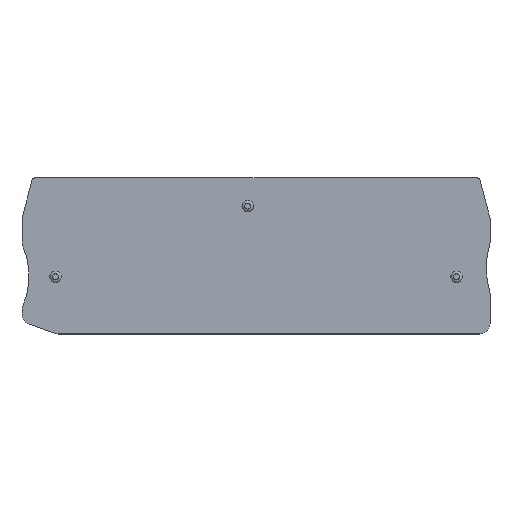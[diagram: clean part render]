
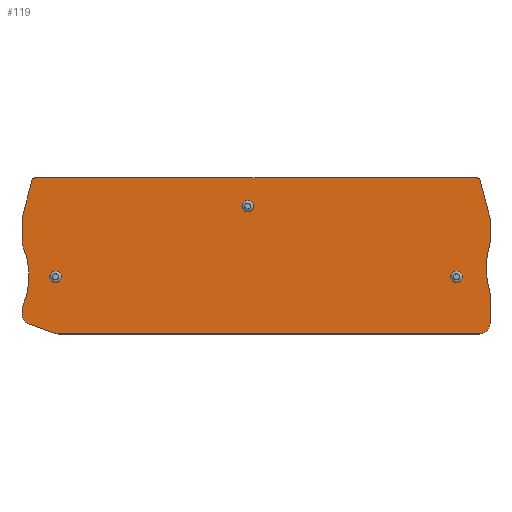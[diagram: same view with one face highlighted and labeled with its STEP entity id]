
A CAD part, top view. The second image highlights one B-rep face of the part: STEP entity #119.
In plain terms, the highlighted planar face has unit normal (0, 0, 1).
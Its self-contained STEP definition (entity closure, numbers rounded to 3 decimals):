
#37=FACE_BOUND('',#188,.T.);
#38=FACE_BOUND('',#189,.T.);
#39=FACE_BOUND('',#190,.T.);
#40=FACE_BOUND('',#191,.T.);
#69=CIRCLE('',#541,0.5);
#71=CIRCLE('',#546,2.);
#73=CIRCLE('',#549,14.5);
#75=CIRCLE('',#552,2.);
#77=CIRCLE('',#556,2.);
#79=CIRCLE('',#560,2.);
#81=CIRCLE('',#564,2.);
#83=CIRCLE('',#568,2.);
#85=CIRCLE('',#571,14.5);
#87=CIRCLE('',#574,2.);
#89=CIRCLE('',#579,0.5);
#90=CIRCLE('',#581,1.062);
#91=CIRCLE('',#582,1.062);
#92=CIRCLE('',#583,1.062);
#119=ADVANCED_FACE('',(#37,#38,#39,#40),#139,.F.);
#139=PLANE('',#584);
#188=EDGE_LOOP('',(#288,#289,#290,#291,#292,#293,#294,#295,#296,#297,#298,
#299,#300,#301,#302,#303,#304,#305,#306,#307));
#189=EDGE_LOOP('',(#308));
#190=EDGE_LOOP('',(#309));
#191=EDGE_LOOP('',(#310));
#288=ORIENTED_EDGE('',*,*,#397,.F.);
#289=ORIENTED_EDGE('',*,*,#454,.F.);
#290=ORIENTED_EDGE('',*,*,#451,.F.);
#291=ORIENTED_EDGE('',*,*,#448,.F.);
#292=ORIENTED_EDGE('',*,*,#445,.F.);
#293=ORIENTED_EDGE('',*,*,#442,.F.);
#294=ORIENTED_EDGE('',*,*,#439,.F.);
#295=ORIENTED_EDGE('',*,*,#436,.F.);
#296=ORIENTED_EDGE('',*,*,#433,.F.);
#297=ORIENTED_EDGE('',*,*,#430,.F.);
#298=ORIENTED_EDGE('',*,*,#427,.F.);
#299=ORIENTED_EDGE('',*,*,#424,.F.);
#300=ORIENTED_EDGE('',*,*,#421,.F.);
#301=ORIENTED_EDGE('',*,*,#418,.F.);
#302=ORIENTED_EDGE('',*,*,#415,.F.);
#303=ORIENTED_EDGE('',*,*,#412,.F.);
#304=ORIENTED_EDGE('',*,*,#409,.F.);
#305=ORIENTED_EDGE('',*,*,#406,.F.);
#306=ORIENTED_EDGE('',*,*,#403,.F.);
#307=ORIENTED_EDGE('',*,*,#400,.F.);
#308=ORIENTED_EDGE('',*,*,#455,.F.);
#309=ORIENTED_EDGE('',*,*,#456,.F.);
#310=ORIENTED_EDGE('',*,*,#457,.F.);
#348=VERTEX_POINT('',#769);
#349=VERTEX_POINT('',#771);
#351=VERTEX_POINT('',#777);
#353=VERTEX_POINT('',#783);
#355=VERTEX_POINT('',#789);
#357=VERTEX_POINT('',#795);
#359=VERTEX_POINT('',#801);
#361=VERTEX_POINT('',#810);
#363=VERTEX_POINT('',#816);
#365=VERTEX_POINT('',#822);
#367=VERTEX_POINT('',#828);
#369=VERTEX_POINT('',#834);
#371=VERTEX_POINT('',#840);
#373=VERTEX_POINT('',#846);
#375=VERTEX_POINT('',#852);
#377=VERTEX_POINT('',#858);
#379=VERTEX_POINT('',#864);
#381=VERTEX_POINT('',#870);
#383=VERTEX_POINT('',#876);
#385=VERTEX_POINT('',#882);
#386=VERTEX_POINT('',#889);
#387=VERTEX_POINT('',#891);
#388=VERTEX_POINT('',#893);
#397=EDGE_CURVE('',#348,#349,#466,.T.);
#400=EDGE_CURVE('',#349,#351,#69,.T.);
#403=EDGE_CURVE('',#351,#353,#470,.T.);
#406=EDGE_CURVE('',#353,#355,#473,.T.);
#409=EDGE_CURVE('',#355,#357,#71,.T.);
#412=EDGE_CURVE('',#357,#359,#73,.T.);
#415=EDGE_CURVE('',#359,#361,#75,.T.);
#418=EDGE_CURVE('',#361,#363,#478,.T.);
#421=EDGE_CURVE('',#363,#365,#77,.T.);
#424=EDGE_CURVE('',#365,#367,#482,.T.);
#427=EDGE_CURVE('',#367,#369,#79,.T.);
#430=EDGE_CURVE('',#369,#371,#486,.T.);
#433=EDGE_CURVE('',#371,#373,#81,.T.);
#436=EDGE_CURVE('',#373,#375,#490,.T.);
#439=EDGE_CURVE('',#375,#377,#83,.T.);
#442=EDGE_CURVE('',#377,#379,#85,.T.);
#445=EDGE_CURVE('',#379,#381,#87,.T.);
#448=EDGE_CURVE('',#381,#383,#496,.T.);
#451=EDGE_CURVE('',#383,#385,#499,.T.);
#454=EDGE_CURVE('',#385,#348,#89,.T.);
#455=EDGE_CURVE('',#386,#386,#90,.T.);
#456=EDGE_CURVE('',#387,#387,#91,.T.);
#457=EDGE_CURVE('',#388,#388,#92,.T.);
#466=LINE('',#770,#503);
#470=LINE('',#782,#507);
#473=LINE('',#788,#510);
#478=LINE('',#815,#515);
#482=LINE('',#827,#519);
#486=LINE('',#839,#523);
#490=LINE('',#851,#527);
#496=LINE('',#875,#533);
#499=LINE('',#881,#536);
#503=VECTOR('',#605,1.);
#507=VECTOR('',#617,1.);
#510=VECTOR('',#622,1.);
#515=VECTOR('',#647,1.);
#519=VECTOR('',#659,1.);
#523=VECTOR('',#671,1.);
#527=VECTOR('',#683,1.);
#533=VECTOR('',#709,1.);
#536=VECTOR('',#714,1.);
#541=AXIS2_PLACEMENT_3D('',#776,#611,#612);
#546=AXIS2_PLACEMENT_3D('',#794,#628,#629);
#549=AXIS2_PLACEMENT_3D('',#800,#635,#636);
#552=AXIS2_PLACEMENT_3D('',#809,#641,#642);
#556=AXIS2_PLACEMENT_3D('',#821,#653,#654);
#560=AXIS2_PLACEMENT_3D('',#833,#665,#666);
#564=AXIS2_PLACEMENT_3D('',#845,#677,#678);
#568=AXIS2_PLACEMENT_3D('',#857,#689,#690);
#571=AXIS2_PLACEMENT_3D('',#863,#696,#697);
#574=AXIS2_PLACEMENT_3D('',#869,#703,#704);
#579=AXIS2_PLACEMENT_3D('',#886,#720,#721);
#581=AXIS2_PLACEMENT_3D('',#888,#724,#725);
#582=AXIS2_PLACEMENT_3D('',#890,#726,#727);
#583=AXIS2_PLACEMENT_3D('',#892,#728,#729);
#584=AXIS2_PLACEMENT_3D('',#894,#730,#731);
#605=DIRECTION('',(1.,0.,0.));
#611=DIRECTION('',(0.,0.,-1.));
#612=DIRECTION('',(1.,0.,0.));
#617=DIRECTION('',(0.259,-0.966,0.));
#622=DIRECTION('',(0.,-1.,0.));
#628=DIRECTION('',(0.,0.,-1.));
#629=DIRECTION('',(1.,0.,0.));
#635=DIRECTION('',(0.,0.,1.));
#636=DIRECTION('',(-1.,0.,0.));
#641=DIRECTION('',(0.,0.,-1.));
#642=DIRECTION('',(1.,0.,0.));
#647=DIRECTION('',(0.,-1.,0.));
#653=DIRECTION('',(0.,0.,-1.));
#654=DIRECTION('',(1.,0.,0.));
#659=DIRECTION('',(-1.,0.,0.));
#665=DIRECTION('',(0.,0.,-1.));
#666=DIRECTION('',(1.,0.,0.));
#671=DIRECTION('',(-0.94,0.342,0.));
#677=DIRECTION('',(0.,0.,-1.));
#678=DIRECTION('',(1.,0.,0.));
#683=DIRECTION('',(0.,1.,0.));
#689=DIRECTION('',(0.,0.,-1.));
#690=DIRECTION('',(1.,0.,0.));
#696=DIRECTION('',(0.,0.,1.));
#697=DIRECTION('',(-1.,0.,0.));
#703=DIRECTION('',(0.,0.,-1.));
#704=DIRECTION('',(1.,0.,0.));
#709=DIRECTION('',(0.,1.,0.));
#714=DIRECTION('',(0.259,0.966,0.));
#720=DIRECTION('',(0.,0.,-1.));
#721=DIRECTION('',(1.,0.,0.));
#724=DIRECTION('',(0.,0.,1.));
#725=DIRECTION('',(1.,0.,0.));
#726=DIRECTION('',(0.,0.,1.));
#727=DIRECTION('',(1.,0.,0.));
#728=DIRECTION('',(0.,0.,1.));
#729=DIRECTION('',(1.,0.,0.));
#730=DIRECTION('',(0.,0.,-1.));
#731=DIRECTION('',(-1.,0.,0.));
#769=CARTESIAN_POINT('',(4.809,30.94,2.2));
#770=CARTESIAN_POINT('',(4.809,30.94,2.2));
#771=CARTESIAN_POINT('',(87.341,30.94,2.2));
#776=CARTESIAN_POINT('',(87.341,30.44,2.2));
#777=CARTESIAN_POINT('',(87.824,30.57,2.2));
#782=CARTESIAN_POINT('',(87.824,30.57,2.2));
#783=CARTESIAN_POINT('',(89.725,23.476,2.2));
#788=CARTESIAN_POINT('',(89.725,23.476,2.2));
#789=CARTESIAN_POINT('',(89.725,18.945,2.2));
#794=CARTESIAN_POINT('',(87.725,18.945,2.2));
#795=CARTESIAN_POINT('',(89.64,18.369,2.2));
#800=CARTESIAN_POINT('',(103.525,14.19,2.2));
#801=CARTESIAN_POINT('',(89.64,10.011,2.2));
#809=CARTESIAN_POINT('',(87.725,9.435,2.2));
#810=CARTESIAN_POINT('',(89.725,9.435,2.2));
#815=CARTESIAN_POINT('',(89.725,9.435,2.2));
#816=CARTESIAN_POINT('',(89.725,3.84,2.2));
#821=CARTESIAN_POINT('',(87.725,3.84,2.2));
#822=CARTESIAN_POINT('',(87.725,1.84,2.2));
#827=CARTESIAN_POINT('',(87.725,1.84,2.2));
#828=CARTESIAN_POINT('',(9.163,1.84,2.2));
#833=CARTESIAN_POINT('',(9.163,3.84,2.2));
#834=CARTESIAN_POINT('',(8.479,1.961,2.2));
#839=CARTESIAN_POINT('',(8.479,1.961,2.2));
#840=CARTESIAN_POINT('',(3.741,3.685,2.2));
#845=CARTESIAN_POINT('',(4.425,5.565,2.2));
#846=CARTESIAN_POINT('',(2.425,5.565,2.2));
#851=CARTESIAN_POINT('',(2.425,5.565,2.2));
#852=CARTESIAN_POINT('',(2.425,6.217,2.2));
#857=CARTESIAN_POINT('',(4.425,6.217,2.2));
#858=CARTESIAN_POINT('',(2.582,6.995,2.2));
#863=CARTESIAN_POINT('',(-10.775,12.637,2.2));
#864=CARTESIAN_POINT('',(2.582,18.278,2.2));
#869=CARTESIAN_POINT('',(4.425,19.056,2.2));
#870=CARTESIAN_POINT('',(2.425,19.056,2.2));
#875=CARTESIAN_POINT('',(2.425,19.056,2.2));
#876=CARTESIAN_POINT('',(2.425,23.473,2.2));
#881=CARTESIAN_POINT('',(2.425,23.473,2.2));
#882=CARTESIAN_POINT('',(4.326,30.57,2.2));
#886=CARTESIAN_POINT('',(4.809,30.44,2.2));
#888=CARTESIAN_POINT('',(83.475,12.49,2.2));
#889=CARTESIAN_POINT('',(84.536,12.49,2.2));
#890=CARTESIAN_POINT('',(44.525,25.69,2.2));
#891=CARTESIAN_POINT('',(45.586,25.69,2.2));
#892=CARTESIAN_POINT('',(8.675,12.49,2.2));
#893=CARTESIAN_POINT('',(9.736,12.49,2.2));
#894=CARTESIAN_POINT('',(87.341,30.44,2.2));
